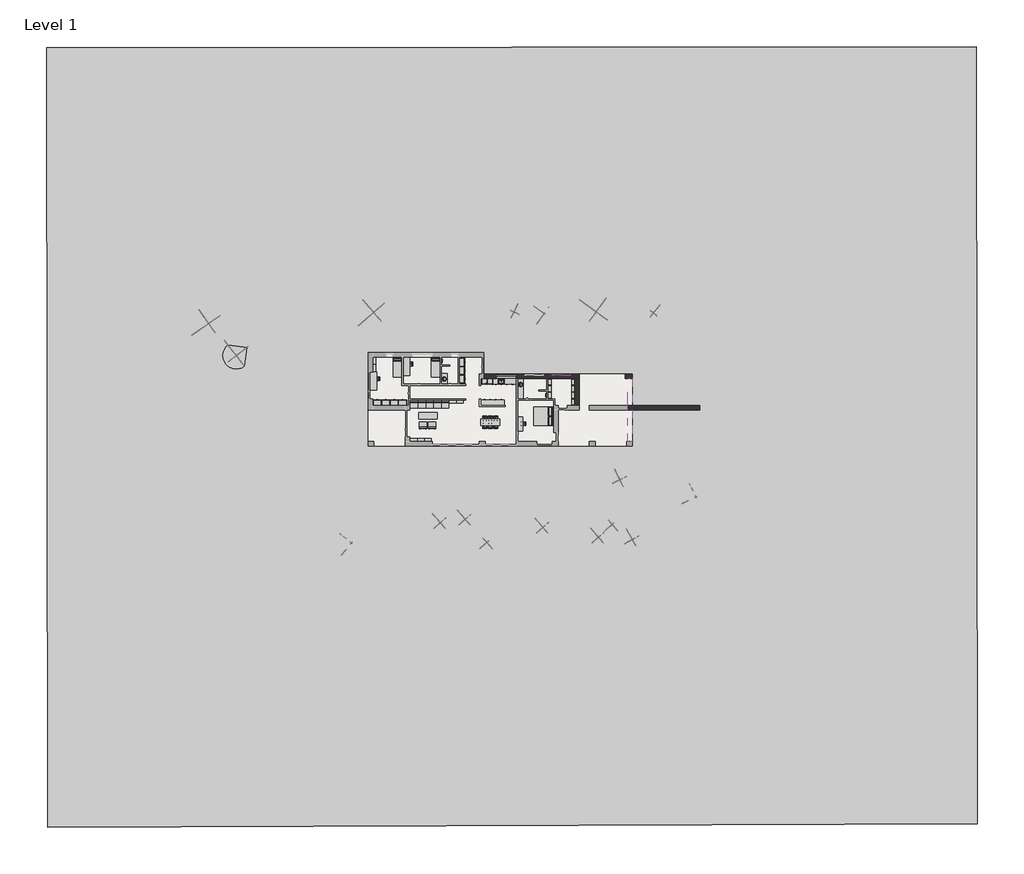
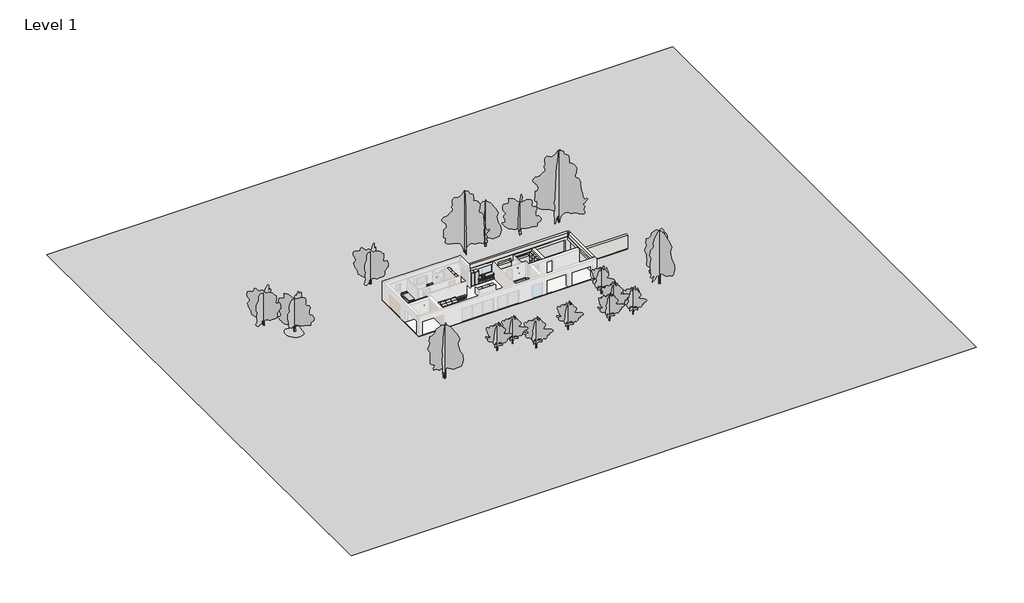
# One storey, part 2 of 2: 65 furniture elements, 17 geographic elements, 5 flow terminals, 4 walls, 1 proxy, 1 slab, 1 window.
"""IFC4 building model written with IfcOpenShell, lengths in millimetres."""

from ifc_helpers import new_model, si_unit, frame, origin, origin_with_axes, place, context, project, spatial, polyline, outline, extrude, faceted_brep, triangles, transform, mapped, element, save
from components import shower_shower_88c2a776, sink_kitchen_single_600_x_535mm_f0c6929d, sink_vanity_round_482_x_482mm_621b7b9b, furniture_c7f23c1d, furniture_56f83323, furniture_641ccf10, furniture_1500_x_500mm_231fc5f9, furniture_1900_x_700mm_ac9d8d07, furniture_2000_x_700mm_040c55c5, furniture_2000_x_700mm_sofa_1e09125b, furniture_700_x_300_x_2200mm_207dd1db, furniture_750_x_300_x_450mm_957a72fb, furniture_750_x_300_x_700mm_660817c4, base_cabinet_4_drawers_600_mm_7743cde6, base_cabinet_4_drawers_600_mm_75a3c887, bed_box_2000_x_2100mm_5f007bae, bed_standard_2100_x_900mm_af0b1266, couch_straight_module_couch_straight_module_fcc397ea, counter_top_counter_top_fbe04672, counter_top_w_sink_counter_top_w_sink_1a22a961, front_plain_front_plain_37046411, front_plain_front_plain_e6c80844, front_plain_front_plain_2_fe2e9d0c, plinth_164mm_a440ec44, plinth_164mm_10810e33, tall_cabinet_double_door_900_mm_12ca9f50, tall_cabinet_single_door_600_mm_6a825e10, vanity_counter_top_w_round_sink_hole_600mm_depth_ba51d22c, vanity_counter_top_w_round_sink_hole_600mm_depth_d806985c, rpc_tree_deciduous_american_beech_6_0_meters_be49fed4, rpc_tree_deciduous_japanese_cherry_4_5_meters_cd2ce576, rpc_tree_deciduous_japanese_cherry_5_meters_cd988bd5, rpc_tree_deciduous_lombardy_poplar_10_5_meters_a89ac7ab, rpc_tree_deciduous_lombardy_poplar_12_2_meters_e292760b, rpc_tree_deciduous_red_ash_2_4b385689, rpc_tree_deciduous_red_ash_7_6_meters_16c8020d, single_light_top_hinged_1920x600_dd11e4f9

model = new_model("IFC4")

# Units and contexts
model_context = context("Model", 3, world=origin())
ifc_project = project(units=[si_unit("LENGTHUNIT", "METRE", prefix="MILLI")], contexts=[model_context])

# Site, building, storey
site = spatial("IfcSite", under=ifc_project)
building = spatial("IfcBuilding", under=site)
storey = spatial("IfcBuildingStorey", under=building, Name="Level 1", Elevation=0.0)

# Proxy
placement = place(None, origin())
element("IfcBuildingElementProxy", 1, Name="Building Element Proxy", at=placement, inside=storey, context=model_context, shape_type="Tessellation", body=[
    triangles([(-34365.77677, 42576.5825684, -100.0000008), (64971.4109619, 42696.1241089, -100.0000008), (65090.9525024, -40383.7164185, -100.0000008), (-34246.2375549, -40742.3317383, -100.0000008)], [[1, 4, 3], [3, 2, 1]], closed=False),
])

# Flow terminals
shower_shower_shape = shower_shower_88c2a776(model_context)
element("IfcFlowTerminal", 2, ObjectType="Shower : Shower", at=placement, inside=storey, context=model_context, shape_type="MappedRepresentation", body=[
    mapped(shower_shower_shape, transform((19080.0, 5460.0, 0.0), x_axis=(0.0, -1.0000000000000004, 0.0), y_axis=(1.0000000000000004, 0.0, 0.0), z_axis=(0.0, 0.0, 1.0))),
])
element("IfcFlowTerminal", 3, ObjectType="Shower : Shower", at=placement, inside=storey, context=model_context, shape_type="MappedRepresentation", body=[
    mapped(shower_shower_shape, transform((7800.0, 9060.0, 0.0), x_axis=(0.0, 1.0000000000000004, 0.0), y_axis=(-1.0000000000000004, 0.0, 0.0), z_axis=(0.0, 0.0, 1.0))),
])
sink_kitchen_single_600_x_535mm_shape = sink_kitchen_single_600_x_535mm_f0c6929d(model_context)
element("IfcFlowTerminal", 4, ObjectType="Sink Kitchen-Single : 600 x 535mm", at=placement, inside=storey, context=model_context, shape_type="MappedRepresentation", body=[
    mapped(sink_kitchen_single_600_x_535mm_shape, transform((14204.3107594, 6884.4545989, 0.0), x_axis=(1.0, 0.0, 0.0), y_axis=(0.0, 1.0, 0.0), z_axis=(0.0, 0.0, 1.0))),
])
sink_vanity_round_482_x_482mm_shape = sink_vanity_round_482_x_482mm_621b7b9b(model_context)
element("IfcFlowTerminal", 5, ObjectType="Sink Vanity - Round : 482 x 482mm", at=placement, inside=storey, context=model_context, shape_type="MappedRepresentation", body=[
    mapped(sink_vanity_round_482_x_482mm_shape, transform((16358.3901141, 6444.5531607, 0.0), x_axis=(0.0, 1.0, 0.0), y_axis=(-1.0, 0.0, 0.0), z_axis=(0.0, 0.0, 1.0))),
])
element("IfcFlowTerminal", 6, ObjectType="Sink Vanity - Round : 482 x 482mm", at=placement, inside=storey, context=model_context, shape_type="MappedRepresentation", body=[
    mapped(sink_vanity_round_482_x_482mm_shape, transform((8199.0351087, 7049.1198202, 0.0), x_axis=(0.0, 1.0000000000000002, 0.0), y_axis=(-1.0000000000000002, 0.0, 0.0), z_axis=(0.0, 0.0, 1.0))),
])

# Furniture
furniture_shape = furniture_c7f23c1d(model_context)
element("IfcFurniture", 7, ObjectType="Armchair - Barcelona : Armchair - Barcelona", at=placement, inside=storey, context=model_context, shape_type="MappedRepresentation", body=[
    mapped(furniture_shape, transform((5860.0, 1780.0, 0.0), x_axis=(-1.0000000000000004, 0.0, 0.0), y_axis=(0.0, -1.0000000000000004, 0.0), z_axis=(0.0, 0.0, 1.0))),
])
element("IfcFurniture", 8, ObjectType="Armchair - Barcelona : Armchair - Barcelona", at=placement, inside=storey, context=model_context, shape_type="MappedRepresentation", body=[
    mapped(furniture_shape, transform((6820.0, 1780.0, 0.0), x_axis=(-1.0, 0.0, 0.0), y_axis=(0.0, -1.0, 0.0), z_axis=(0.0, 0.0, 1.0))),
])
furniture_2_shape = furniture_56f83323(model_context)
element("IfcFurniture", 9, ObjectType="Chair - Allround : Chair - allround", at=placement, inside=storey, context=model_context, shape_type="MappedRepresentation", body=[
    mapped(furniture_2_shape, transform((13040.0, 2890.0, 0.0), x_axis=(1.0, 0.0, 0.0), y_axis=(0.0, 1.0, 0.0), z_axis=(0.0, 0.0, 1.0))),
])
element("IfcFurniture", 10, ObjectType="Chair - Allround : Chair - allround", at=placement, inside=storey, context=model_context, shape_type="MappedRepresentation", body=[
    mapped(furniture_2_shape, transform((12440.0, 2890.0, 0.0), x_axis=(1.0, 0.0, 0.0), y_axis=(0.0, 1.0, 0.0), z_axis=(0.0, 0.0, 1.0))),
])
element("IfcFurniture", 11, ObjectType="Chair - Allround : Chair - allround", at=placement, inside=storey, context=model_context, shape_type="MappedRepresentation", body=[
    mapped(furniture_2_shape, transform((13640.0, 2190.0, 0.0), x_axis=(-1.0, 0.0, 0.0), y_axis=(0.0, -1.0, 0.0), z_axis=(0.0, 0.0, 1.0))),
])
element("IfcFurniture", 12, ObjectType="Chair - Allround : Chair - allround", at=placement, inside=storey, context=model_context, shape_type="MappedRepresentation", body=[
    mapped(furniture_2_shape, transform((905.0, 7180.0, 0.0), x_axis=(0.0, -1.0000000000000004, 0.0), y_axis=(1.0000000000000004, 0.0, 0.0), z_axis=(0.0, 0.0, 1.0))),
])
element("IfcFurniture", 13, ObjectType="Chair - Allround : Chair - allround", at=placement, inside=storey, context=model_context, shape_type="MappedRepresentation", body=[
    mapped(furniture_2_shape, transform((4460.0, 8740.0, 0.0), x_axis=(0.0, -1.0000000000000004, 0.0), y_axis=(1.0000000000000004, 0.0, 0.0), z_axis=(0.0, 0.0, 1.0))),
])
element("IfcFurniture", 14, ObjectType="Chair - Allround : Chair - allround", at=placement, inside=storey, context=model_context, shape_type="MappedRepresentation", body=[
    mapped(furniture_2_shape, transform((16525.0, 2370.0, 0.0), x_axis=(0.0, -1.0000000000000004, 0.0), y_axis=(1.0000000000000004, 0.0, 0.0), z_axis=(0.0, 0.0, 1.0))),
])
furniture_3_shape = furniture_641ccf10(model_context)
element("IfcFurniture", 15, ObjectType="Chair - Allround : Chair - allround", at=placement, inside=storey, context=model_context, shape_type="MappedRepresentation", body=[
    mapped(furniture_3_shape, transform((13640.0, 2890.0, 0.0), x_axis=(-1.0, 0.0, 0.0), y_axis=(0.0, -1.0, 0.0), z_axis=(0.0, 0.0, 1.0))),
])
element("IfcFurniture", 16, ObjectType="Chair - Allround : Chair - allround", at=placement, inside=storey, context=model_context, shape_type="MappedRepresentation", body=[
    mapped(furniture_3_shape, transform((13040.0, 2190.0, 0.0), x_axis=(1.0, 0.0, 0.0), y_axis=(0.0, 1.0, 0.0), z_axis=(0.0, 0.0, 1.0))),
])
element("IfcFurniture", 17, ObjectType="Chair - Allround : Chair - allround", at=placement, inside=storey, context=model_context, shape_type="MappedRepresentation", body=[
    mapped(furniture_3_shape, transform((12440.0, 2190.0, 0.0), x_axis=(1.0, 0.0, 0.0), y_axis=(0.0, 1.0, 0.0), z_axis=(0.0, 0.0, 1.0))),
])
furniture_1500_x_500mm_shape = furniture_1500_x_500mm_231fc5f9(model_context)
element("IfcFurniture", 18, ObjectType="Table - Allround : 1500 x 500mm", at=placement, inside=storey, context=model_context, shape_type="MappedRepresentation", body=[
    mapped(furniture_1500_x_500mm_shape, transform((16275.0, 2320.0, 0.0), x_axis=(0.0, 1.0000000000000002, 0.0), y_axis=(-1.0000000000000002, 0.0, 0.0), z_axis=(0.0, 0.0, 1.0))),
])
furniture_1900_x_700mm_shape = furniture_1900_x_700mm_ac9d8d07(model_context)
element("IfcFurniture", 19, ObjectType="Table - Allround : 1900 x 700mm", at=placement, inside=storey, context=model_context, shape_type="MappedRepresentation", body=[
    mapped(furniture_1900_x_700mm_shape, transform((555.0, 6930.0, 0.0), x_axis=(0.0, 1.0, 0.0), y_axis=(-1.0, 0.0, 0.0), z_axis=(0.0, 0.0, 1.0))),
])
element("IfcFurniture", 20, ObjectType="Table - Allround : 1900 x 700mm", at=placement, inside=storey, context=model_context, shape_type="MappedRepresentation", body=[
    mapped(furniture_1900_x_700mm_shape, transform((4110.0, 8490.0, 0.0), x_axis=(0.0, 1.0, 0.0), y_axis=(-1.0, 0.0, 0.0), z_axis=(0.0, 0.0, 1.0))),
])
furniture_2000_x_700mm_shape = furniture_2000_x_700mm_040c55c5(model_context)
element("IfcFurniture", 21, ObjectType="Table - Allround : 2000 x 700mm", at=placement, inside=storey, context=model_context, shape_type="MappedRepresentation", body=[
    mapped(furniture_2000_x_700mm_shape, transform((13040.0, 2540.0, 0.0), x_axis=(1.0, 0.0, 0.0), y_axis=(0.0, 1.0, 0.0), z_axis=(0.0, 0.0, 1.0))),
])
furniture_2000_x_700mm_sofa_shape = furniture_2000_x_700mm_sofa_1e09125b(model_context)
element("IfcFurniture", 22, ObjectType="Table - Allround : 2000 x 700mm Sofa", at=placement, inside=storey, context=model_context, shape_type="MappedRepresentation", body=[
    mapped(furniture_2000_x_700mm_sofa_shape, transform((6380.0, 3240.0, 0.0), x_axis=(1.0, 0.0, 0.0), y_axis=(0.0, 1.0, 0.0), z_axis=(0.0, 0.0, 1.0))),
])
furniture_700_x_300_x_2200mm_shape = furniture_700_x_300_x_2200mm_207dd1db(model_context)
element("IfcFurniture", 23, ObjectType="Shelving (Floor) - Allround : 700 x 300 x 2200mm", at=placement, inside=storey, context=model_context, shape_type="MappedRepresentation", body=[
    mapped(furniture_700_x_300_x_2200mm_shape, transform((19085.2, 6810.0, 0.0), x_axis=(0.0, 1.0000000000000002, 0.0), y_axis=(-1.0000000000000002, 0.0, 0.0), z_axis=(0.0, 0.0, 1.0))),
])
element("IfcFurniture", 24, ObjectType="Shelving (Floor) - Allround : 700 x 300 x 2200mm", at=placement, inside=storey, context=model_context, shape_type="MappedRepresentation", body=[
    mapped(furniture_700_x_300_x_2200mm_shape, transform((19085.2, 6110.0, 0.0), x_axis=(0.0, 1.0000000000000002, 0.0), y_axis=(-1.0000000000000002, 0.0, 0.0), z_axis=(0.0, 0.0, 1.0))),
])
element("IfcFurniture", 25, ObjectType="Shelving (Floor) - Allround : 700 x 300 x 2200mm", at=placement, inside=storey, context=model_context, shape_type="MappedRepresentation", body=[
    mapped(furniture_700_x_300_x_2200mm_shape, transform((19085.2, 5410.0, 0.0), x_axis=(0.0, 1.0000000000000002, 0.0), y_axis=(-1.0000000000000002, 0.0, 0.0), z_axis=(0.0, 0.0, 1.0))),
])
element("IfcFurniture", 26, ObjectType="Shelving (Floor) - Allround : 700 x 300 x 2200mm", at=placement, inside=storey, context=model_context, shape_type="MappedRepresentation", body=[
    mapped(furniture_700_x_300_x_2200mm_shape, transform((21585.2, 6810.0, 0.0), x_axis=(0.0, 1.0000000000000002, 0.0), y_axis=(-1.0000000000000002, 0.0, 0.0), z_axis=(0.0, 0.0, 1.0))),
])
element("IfcFurniture", 27, ObjectType="Shelving (Floor) - Allround : 700 x 300 x 2200mm", at=placement, inside=storey, context=model_context, shape_type="MappedRepresentation", body=[
    mapped(furniture_700_x_300_x_2200mm_shape, transform((21585.2, 6110.0, 0.0), x_axis=(0.0, 1.0000000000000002, 0.0), y_axis=(-1.0000000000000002, 0.0, 0.0), z_axis=(0.0, 0.0, 1.0))),
])
element("IfcFurniture", 28, ObjectType="Shelving (Floor) - Allround : 700 x 300 x 2200mm", at=placement, inside=storey, context=model_context, shape_type="MappedRepresentation", body=[
    mapped(furniture_700_x_300_x_2200mm_shape, transform((21585.2, 5410.0, 0.0), x_axis=(0.0, 1.0000000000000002, 0.0), y_axis=(-1.0000000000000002, 0.0, 0.0), z_axis=(0.0, 0.0, 1.0))),
])
element("IfcFurniture", 29, ObjectType="Shelving (Floor) - Allround : 700 x 300 x 2200mm", at=placement, inside=storey, context=model_context, shape_type="MappedRepresentation", body=[
    mapped(furniture_700_x_300_x_2200mm_shape, transform((21585.2, 4710.0, 0.0), x_axis=(0.0, 1.0000000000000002, 0.0), y_axis=(-1.0000000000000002, 0.0, 0.0), z_axis=(0.0, 0.0, 1.0))),
])
furniture_750_x_300_x_450mm_shape = furniture_750_x_300_x_450mm_957a72fb(model_context)
element("IfcFurniture", 30, ObjectType="Shelving (Floor) - Allround : 750 x 300 x 450mm", at=placement, inside=storey, context=model_context, shape_type="MappedRepresentation", body=[
    mapped(furniture_750_x_300_x_450mm_shape, transform((9045.0, 5034.8, 0.0), x_axis=(1.0, 0.0, 0.0), y_axis=(0.0, 1.0, 0.0), z_axis=(0.0, 0.0, 1.0))),
])
element("IfcFurniture", 31, ObjectType="Shelving (Floor) - Allround : 750 x 300 x 450mm", at=placement, inside=storey, context=model_context, shape_type="MappedRepresentation", body=[
    mapped(furniture_750_x_300_x_450mm_shape, transform((9795.0, 5034.8, 0.0), x_axis=(1.0, 0.0, 0.0), y_axis=(0.0, 1.0, 0.0), z_axis=(0.0, 0.0, 1.0))),
])
element("IfcFurniture", 32, ObjectType="Shelving (Floor) - Allround : 750 x 300 x 450mm", at=placement, inside=storey, context=model_context, shape_type="MappedRepresentation", body=[
    mapped(furniture_750_x_300_x_450mm_shape, transform((4855.0, 974.8, 0.0), x_axis=(1.0, 0.0, 0.0), y_axis=(0.0, 1.0, 0.0), z_axis=(0.0, 0.0, 1.0))),
])
element("IfcFurniture", 33, ObjectType="Shelving (Floor) - Allround : 750 x 300 x 450mm", at=placement, inside=storey, context=model_context, shape_type="MappedRepresentation", body=[
    mapped(furniture_750_x_300_x_450mm_shape, transform((5605.0, 974.8, 0.0), x_axis=(1.0, 0.0, 0.0), y_axis=(0.0, 1.0, 0.0), z_axis=(0.0, 0.0, 1.0))),
])
element("IfcFurniture", 34, ObjectType="Shelving (Floor) - Allround : 750 x 300 x 450mm", at=placement, inside=storey, context=model_context, shape_type="MappedRepresentation", body=[
    mapped(furniture_750_x_300_x_450mm_shape, transform((6355.0, 974.8, 0.0), x_axis=(1.0, 0.0, 0.0), y_axis=(0.0, 1.0, 0.0), z_axis=(0.0, 0.0, 1.0))),
])
furniture_750_x_300_x_700mm_shape = furniture_750_x_300_x_700mm_660817c4(model_context)
element("IfcFurniture", 35, ObjectType="Shelving (Floor) - Allround : 750 x 300 x 700mm", at=placement, inside=storey, context=model_context, shape_type="MappedRepresentation", body=[
    mapped(furniture_750_x_300_x_700mm_shape, transform((365.2, 9065.0, 0.0), x_axis=(0.0, 1.0000000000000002, 0.0), y_axis=(-1.0000000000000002, 0.0, 0.0), z_axis=(0.0, 0.0, 1.0))),
])
element("IfcFurniture", 36, ObjectType="Shelving (Floor) - Allround : 750 x 300 x 700mm", at=placement, inside=storey, context=model_context, shape_type="MappedRepresentation", body=[
    mapped(furniture_750_x_300_x_700mm_shape, transform((365.2, 8315.0, 0.0), x_axis=(0.0, 1.0000000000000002, 0.0), y_axis=(-1.0000000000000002, 0.0, 0.0), z_axis=(0.0, 0.0, 1.0))),
])
base_cabinet_4_drawers_600_mm_shape = base_cabinet_4_drawers_600_mm_7743cde6(model_context)
element("IfcFurniture", 37, ObjectType="Base Cabinet - 4 Drawers : 600 mm", at=placement, inside=storey, context=model_context, shape_type="MappedRepresentation", body=[
    mapped(base_cabinet_4_drawers_600_mm_shape, transform((13575.2996736, 7200.0, 0.0), x_axis=(1.0, 0.0, 0.0), y_axis=(0.0, 1.0, 0.0), z_axis=(0.0, 0.0, 1.0))),
])
element("IfcFurniture", 38, ObjectType="Base Cabinet - 4 Drawers : 600 mm", at=placement, inside=storey, context=model_context, shape_type="MappedRepresentation", body=[
    mapped(base_cabinet_4_drawers_600_mm_shape, transform((14775.2996736, 7200.0, 0.0), x_axis=(1.0, 0.0, 0.0), y_axis=(0.0, 1.0, 0.0), z_axis=(0.0, 0.0, 1.0))),
])
element("IfcFurniture", 39, ObjectType="Base Cabinet - 4 Drawers : 600 mm", at=placement, inside=storey, context=model_context, shape_type="MappedRepresentation", body=[
    mapped(base_cabinet_4_drawers_600_mm_shape, transform((15375.2996736, 7200.0, 0.0), x_axis=(1.0, 0.0, 0.0), y_axis=(0.0, 1.0, 0.0), z_axis=(0.0, 0.0, 1.0))),
])
element("IfcFurniture", 40, ObjectType="Base Cabinet - 4 Drawers : 600 mm", at=placement, inside=storey, context=model_context, shape_type="MappedRepresentation", body=[
    mapped(base_cabinet_4_drawers_600_mm_shape, transform((12464.7003264, 4320.0, 0.0), x_axis=(-1.0, 0.0, 0.0), y_axis=(0.0, -1.0, 0.0), z_axis=(0.0, 0.0, 1.0))),
])
element("IfcFurniture", 41, ObjectType="Base Cabinet - 4 Drawers : 600 mm", at=placement, inside=storey, context=model_context, shape_type="MappedRepresentation", body=[
    mapped(base_cabinet_4_drawers_600_mm_shape, transform((13064.7003264, 4320.0, 0.0), x_axis=(-1.0, 0.0, 0.0), y_axis=(0.0, -1.0, 0.0), z_axis=(0.0, 0.0, 1.0))),
])
element("IfcFurniture", 42, ObjectType="Base Cabinet - 4 Drawers : 600 mm", at=placement, inside=storey, context=model_context, shape_type="MappedRepresentation", body=[
    mapped(base_cabinet_4_drawers_600_mm_shape, transform((13664.7003264, 4320.0, 0.0), x_axis=(-1.0, 0.0, 0.0), y_axis=(0.0, -1.0, 0.0), z_axis=(0.0, 0.0, 1.0))),
])
element("IfcFurniture", 43, ObjectType="Base Cabinet - 4 Drawers : 600 mm", at=placement, inside=storey, context=model_context, shape_type="MappedRepresentation", body=[
    mapped(base_cabinet_4_drawers_600_mm_shape, transform((14264.7003264, 4320.0, 0.0), x_axis=(-1.0, 0.0, 0.0), y_axis=(0.0, -1.0, 0.0), z_axis=(0.0, 0.0, 1.0))),
])
base_cabinet_4_drawers_600_mm_2_shape = base_cabinet_4_drawers_600_mm_75a3c887(model_context)
element("IfcFurniture", 44, ObjectType="Base Cabinet - 4 Drawers : 600 mm", at=placement, inside=storey, context=model_context, shape_type="MappedRepresentation", body=[
    mapped(base_cabinet_4_drawers_600_mm_2_shape, transform((14175.2996736, 7200.0, 0.0), x_axis=(1.0, 0.0, 0.0), y_axis=(0.0, 1.0, 0.0), z_axis=(0.0, 0.0, 1.0))),
])
bed_box_2000_x_2100mm_shape = bed_box_2000_x_2100mm_5f007bae(model_context)
element("IfcFurniture", 45, ObjectType="Bed - Box : 2000 x 2100mm", at=placement, inside=storey, context=model_context, shape_type="MappedRepresentation", body=[
    mapped(bed_box_2000_x_2100mm_shape, transform((18944.4295082, 3509.152459, 0.0), x_axis=(0.0, -1.0, 0.0), y_axis=(1.0, 0.0, 0.0), z_axis=(0.0, 0.0, 1.0))),
])
bed_standard_2100_x_900mm_shape = bed_standard_2100_x_900mm_af0b1266(model_context)
element("IfcFurniture", 46, ObjectType="Bed - Standard : 2100 x 900mm", at=placement, inside=storey, context=model_context, shape_type="MappedRepresentation", body=[
    mapped(bed_standard_2100_x_900mm_shape, transform((2838.5114754, 8435.595082, 0.0), x_axis=(1.0, 0.0, 0.0), y_axis=(0.0, 1.0, 0.0), z_axis=(0.0, 0.0, 1.0))),
])
element("IfcFurniture", 47, ObjectType="Bed - Standard : 2100 x 900mm", at=placement, inside=storey, context=model_context, shape_type="MappedRepresentation", body=[
    mapped(bed_standard_2100_x_900mm_shape, transform((6918.5114754, 8435.595082, 0.0), x_axis=(1.0, 0.0, 0.0), y_axis=(0.0, 1.0, 0.0), z_axis=(0.0, 0.0, 1.0))),
])
couch_straight_module_couch_straight_module_shape = couch_straight_module_couch_straight_module_fcc397ea(model_context)
element("IfcFurniture", 48, ObjectType="Couch - Straight Module : Couch straight module", at=placement, inside=storey, context=model_context, shape_type="MappedRepresentation", body=[
    mapped(couch_straight_module_couch_straight_module_shape, transform((4480.0, 4050.0, 0.0), x_axis=(1.0, 0.0, 0.0), y_axis=(0.0, 1.0, 0.0), z_axis=(0.0, 0.0, 1.0))),
])
element("IfcFurniture", 49, ObjectType="Couch - Straight Module : Couch straight module", at=placement, inside=storey, context=model_context, shape_type="MappedRepresentation", body=[
    mapped(couch_straight_module_couch_straight_module_shape, transform((5310.0, 4050.0, 0.0), x_axis=(1.0, 0.0, 0.0), y_axis=(0.0, 1.0, 0.0), z_axis=(0.0, 0.0, 1.0))),
])
element("IfcFurniture", 50, ObjectType="Couch - Straight Module : Couch straight module", at=placement, inside=storey, context=model_context, shape_type="MappedRepresentation", body=[
    mapped(couch_straight_module_couch_straight_module_shape, transform((6140.0, 4050.0, 0.0), x_axis=(1.0, 0.0, 0.0), y_axis=(0.0, 1.0, 0.0), z_axis=(0.0, 0.0, 1.0))),
])
element("IfcFurniture", 51, ObjectType="Couch - Straight Module : Couch straight module", at=placement, inside=storey, context=model_context, shape_type="MappedRepresentation", body=[
    mapped(couch_straight_module_couch_straight_module_shape, transform((6970.0, 4050.0, 0.0), x_axis=(1.0, 0.0, 0.0), y_axis=(0.0, 1.0, 0.0), z_axis=(0.0, 0.0, 1.0))),
])
element("IfcFurniture", 52, ObjectType="Couch - Straight Module : Couch straight module", at=placement, inside=storey, context=model_context, shape_type="MappedRepresentation", body=[
    mapped(couch_straight_module_couch_straight_module_shape, transform((7800.0, 4050.0, 0.0), x_axis=(1.0, 0.0, 0.0), y_axis=(0.0, 1.0, 0.0), z_axis=(0.0, 0.0, 1.0))),
])
counter_top_counter_top_shape = counter_top_counter_top_fbe04672(model_context)
element("IfcFurniture", 53, ObjectType="Counter Top : Counter Top", at=placement, inside=storey, context=model_context, shape_type="MappedRepresentation", body=[
    mapped(counter_top_counter_top_shape, transform((12555.2996736, 4920.0, 0.0), x_axis=(1.0, 0.0, 0.0), y_axis=(0.0, 1.0, 0.0), z_axis=(0.0, 0.0, 1.0))),
])
counter_top_w_sink_counter_top_w_sink_shape = counter_top_w_sink_counter_top_w_sink_1a22a961(model_context)
element("IfcFurniture", 54, ObjectType="Counter Top w Sink : Counter Top w Sink", at=placement, inside=storey, context=model_context, shape_type="MappedRepresentation", body=[
    mapped(counter_top_w_sink_counter_top_w_sink_shape, transform((13875.2996736, 7200.0, 0.0), x_axis=(1.0, 0.0, 0.0), y_axis=(0.0, 1.0, 0.0), z_axis=(0.0, 0.0, 1.0))),
])
front_plain_front_plain_shape = front_plain_front_plain_37046411(model_context)
element("IfcFurniture", 55, ObjectType="Front - Plain : Front - Plain", at=placement, inside=storey, context=model_context, shape_type="MappedRepresentation", body=[
    mapped(front_plain_front_plain_shape, transform((15783.0, 6711.0, 161.0), x_axis=(1.0, 0.0, 0.0), y_axis=(0.0, 1.0, 0.0), z_axis=(0.0, 0.0, 1.0))),
])
element("IfcFurniture", 56, ObjectType="Front - Plain : Front - Plain", at=placement, inside=storey, context=model_context, shape_type="MappedRepresentation", body=[
    mapped(front_plain_front_plain_shape, transform((12057.0, 4809.0, 161.0), x_axis=(-1.0, 0.0, 0.0), y_axis=(0.0, -1.0, 0.0), z_axis=(0.0, 0.0, 1.0))),
])
front_plain_front_plain_2_shape = front_plain_front_plain_e6c80844(model_context)
element("IfcFurniture", 57, ObjectType="Front - Plain : Front - Plain", at=placement, inside=storey, context=model_context, shape_type="MappedRepresentation", body=[
    mapped(front_plain_front_plain_2_shape, transform((12657.0, 6711.0, 161.0), x_axis=(-1.0, 0.0, 0.0), y_axis=(0.0, -1.0, 0.0), z_axis=(0.0, 0.0, 1.0))),
])
front_plain_front_plain_2_2_shape = front_plain_front_plain_2_fe2e9d0c(model_context)
element("IfcFurniture", 58, ObjectType="Front - Plain : Front - Plain 2", at=placement, inside=storey, context=model_context, shape_type="MappedRepresentation", body=[
    mapped(front_plain_front_plain_2_2_shape, transform((12057.0, 6711.0, 161.0), x_axis=(-1.0, 0.0, 0.0), y_axis=(0.0, -1.0, 0.0), z_axis=(0.0, 0.0, 1.0))),
])
plinth_164mm_shape = plinth_164mm_a440ec44(model_context)
element("IfcFurniture", 59, ObjectType="Plinth : 164mm", at=placement, inside=storey, context=model_context, shape_type="MappedRepresentation", body=[
    mapped(plinth_164mm_shape, transform((13875.2996736, 7200.0, 0.0), x_axis=(1.0, 0.0, 0.0), y_axis=(0.0, 1.0, 0.0), z_axis=(0.0, 0.0, 1.0))),
])
plinth_164mm_2_shape = plinth_164mm_10810e33(model_context)
element("IfcFurniture", 60, ObjectType="Plinth : 164mm", at=placement, inside=storey, context=model_context, shape_type="MappedRepresentation", body=[
    mapped(plinth_164mm_2_shape, transform((13304.7003264, 4320.0, 0.0), x_axis=(-1.0000000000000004, 0.0, 0.0), y_axis=(0.0, -1.0000000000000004, 0.0), z_axis=(0.0, 0.0, 1.0))),
])
tall_cabinet_double_door_900_mm_shape = tall_cabinet_double_door_900_mm_12ca9f50(model_context)
element("IfcFurniture", 61, ObjectType="Tall Cabinet - Double door : 900 mm", at=placement, inside=storey, context=model_context, shape_type="MappedRepresentation", body=[
    mapped(tall_cabinet_double_door_900_mm_shape, transform((1014.7003264, 4320.0, 0.0), x_axis=(-1.0000000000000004, 0.0, 0.0), y_axis=(0.0, -1.0000000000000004, 0.0), z_axis=(0.0, 0.0, 1.0))),
])
element("IfcFurniture", 62, ObjectType="Tall Cabinet - Double door : 900 mm", at=placement, inside=storey, context=model_context, shape_type="MappedRepresentation", body=[
    mapped(tall_cabinet_double_door_900_mm_shape, transform((1914.7003264, 4320.0, 0.0), x_axis=(-1.0000000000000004, 0.0, 0.0), y_axis=(0.0, -1.0000000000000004, 0.0), z_axis=(0.0, 0.0, 1.0))),
])
element("IfcFurniture", 63, ObjectType="Tall Cabinet - Double door : 900 mm", at=placement, inside=storey, context=model_context, shape_type="MappedRepresentation", body=[
    mapped(tall_cabinet_double_door_900_mm_shape, transform((2814.7003264, 4320.0, 0.0), x_axis=(-1.0000000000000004, 0.0, 0.0), y_axis=(0.0, -1.0000000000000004, 0.0), z_axis=(0.0, 0.0, 1.0))),
])
element("IfcFurniture", 64, ObjectType="Tall Cabinet - Double door : 900 mm", at=placement, inside=storey, context=model_context, shape_type="MappedRepresentation", body=[
    mapped(tall_cabinet_double_door_900_mm_shape, transform((3714.7003264, 4320.0, 0.0), x_axis=(-1.0000000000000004, 0.0, 0.0), y_axis=(0.0, -1.0000000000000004, 0.0), z_axis=(0.0, 0.0, 1.0))),
])
element("IfcFurniture", 65, ObjectType="Tall Cabinet - Double door : 900 mm", at=placement, inside=storey, context=model_context, shape_type="MappedRepresentation", body=[
    mapped(tall_cabinet_double_door_900_mm_shape, transform((9720.0, 8895.2996736, 0.0), x_axis=(0.0, 1.0000000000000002, 0.0), y_axis=(-1.0000000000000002, 0.0, 0.0), z_axis=(0.0, 0.0, 1.0))),
])
element("IfcFurniture", 66, ObjectType="Tall Cabinet - Double door : 900 mm", at=placement, inside=storey, context=model_context, shape_type="MappedRepresentation", body=[
    mapped(tall_cabinet_double_door_900_mm_shape, transform((9720.0, 7995.2996736, 0.0), x_axis=(0.0, 1.0000000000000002, 0.0), y_axis=(-1.0000000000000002, 0.0, 0.0), z_axis=(0.0, 0.0, 1.0))),
])
element("IfcFurniture", 67, ObjectType="Tall Cabinet - Double door : 900 mm", at=placement, inside=storey, context=model_context, shape_type="MappedRepresentation", body=[
    mapped(tall_cabinet_double_door_900_mm_shape, transform((9720.0, 7095.2996736, 0.0), x_axis=(0.0, 1.0000000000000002, 0.0), y_axis=(-1.0000000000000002, 0.0, 0.0), z_axis=(0.0, 0.0, 1.0))),
])
tall_cabinet_single_door_600_mm_shape = tall_cabinet_single_door_600_mm_6a825e10(model_context)
element("IfcFurniture", 68, ObjectType="Tall Cabinet - Single door : 600 mm", at=placement, inside=storey, context=model_context, shape_type="MappedRepresentation", body=[
    mapped(tall_cabinet_single_door_600_mm_shape, transform((12375.2996736, 7200.0, 0.0), x_axis=(1.0, 0.0, 0.0), y_axis=(0.0, 1.0, 0.0), z_axis=(0.0, 0.0, 1.0))),
])
element("IfcFurniture", 69, ObjectType="Tall Cabinet - Single door : 600 mm", at=placement, inside=storey, context=model_context, shape_type="MappedRepresentation", body=[
    mapped(tall_cabinet_single_door_600_mm_shape, transform((12975.2996736, 7200.0, 0.0), x_axis=(1.0, 0.0, 0.0), y_axis=(0.0, 1.0, 0.0), z_axis=(0.0, 0.0, 1.0))),
])
vanity_counter_top_w_round_sink_hole_600mm_depth_shape = vanity_counter_top_w_round_sink_hole_600mm_depth_ba51d22c(model_context)
element("IfcFurniture", 70, ObjectType="Vanity Counter Top w. Round Sink Hole : 600mm Depth", at=placement, inside=storey, context=model_context, shape_type="MappedRepresentation", body=[
    mapped(vanity_counter_top_w_round_sink_hole_600mm_depth_shape, transform((15960.0, 6367.4622951, 0.0), x_axis=(0.0, 1.0000000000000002, 0.0), y_axis=(-1.0000000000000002, 0.0, 0.0), z_axis=(0.0, 0.0, 1.0))),
])
vanity_counter_top_w_round_sink_hole_600mm_depth_2_shape = vanity_counter_top_w_round_sink_hole_600mm_depth_d806985c(model_context)
element("IfcFurniture", 71, ObjectType="Vanity Counter Top w. Round Sink Hole : 600mm Depth", at=placement, inside=storey, context=model_context, shape_type="MappedRepresentation", body=[
    mapped(vanity_counter_top_w_round_sink_hole_600mm_depth_2_shape, transform((7800.0, 7927.4622951, 0.0), x_axis=(0.0, 1.0000000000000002, 0.0), y_axis=(-1.0000000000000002, 0.0, 0.0), z_axis=(0.0, 0.0, 1.0))),
])

# Geographic elements
rpc_tree_deciduous_american_beech_6_0_meters_shape = rpc_tree_deciduous_american_beech_6_0_meters_be49fed4(model_context)
element("IfcGeographicElement", 72, ObjectType="RPC Tree - Deciduous : American Beech - 6.0 Meters", at=placement, inside=storey, context=model_context, shape_type="MappedRepresentation", body=[
    mapped(rpc_tree_deciduous_american_beech_6_0_meters_shape, transform((24356.1071766, 14328.1056074, -200.0), x_axis=(0.8091201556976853, -0.5876432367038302, 0.0), y_axis=(0.5876432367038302, 0.8091201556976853, 0.0), z_axis=(0.0, 0.0, 1.0))),
])
element("IfcGeographicElement", 73, ObjectType="RPC Tree - Deciduous : American Beech - 6.0 Meters", at=placement, inside=storey, context=model_context, shape_type="MappedRepresentation", body=[
    mapped(rpc_tree_deciduous_american_beech_6_0_meters_shape, transform((-14098.0785362, 9648.3486516, -100.0), x_axis=(0.6156614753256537, -0.7880107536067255, 0.0), y_axis=(0.7880107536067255, 0.6156614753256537, 0.0), z_axis=(0.0, 0.0, 1.0))),
])
element("IfcGeographicElement", 74, ObjectType="RPC Tree - Deciduous : American Beech - 6.0 Meters", at=placement, inside=storey, context=model_context, shape_type="MappedRepresentation", body=[
    mapped(rpc_tree_deciduous_american_beech_6_0_meters_shape, transform((-17050.6335171, 13084.7262767, -200.0), x_axis=(0.819152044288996, 0.5735764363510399, 0.0), y_axis=(-0.5735764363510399, 0.819152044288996, 0.0), z_axis=(0.0, 0.0, 1.0))),
])
element("IfcGeographicElement", 75, ObjectType="RPC Tree - Deciduous : American Beech - 6.0 Meters", at=placement, inside=storey, context=model_context, shape_type="MappedRepresentation", body=[
    mapped(rpc_tree_deciduous_american_beech_6_0_meters_shape, transform((585.0177089, 14270.8978992, -200.0), x_axis=(0.7547095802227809, 0.656059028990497, 0.0), y_axis=(-0.656059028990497, 0.7547095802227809, 0.0), z_axis=(0.0, 0.0, 1.0))),
])
rpc_tree_deciduous_japanese_cherry_4_5_meters_shape = rpc_tree_deciduous_japanese_cherry_4_5_meters_cd2ce576(model_context)
element("IfcGeographicElement", 76, ObjectType="RPC Tree - Deciduous : Japanese Cherry - 4.5 Meters", at=placement, inside=storey, context=model_context, shape_type="MappedRepresentation", body=[
    mapped(rpc_tree_deciduous_japanese_cherry_4_5_meters_shape, transform((28208.8811591, -10005.5743088, -200.0), x_axis=(0.8746197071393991, 0.48480962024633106, 0.0), y_axis=(-0.48480962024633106, 0.8746197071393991, 0.0), z_axis=(0.0, 0.0, 1.0))),
])
element("IfcGeographicElement", 77, ObjectType="RPC Tree - Deciduous : Japanese Cherry - 4.5 Meters", at=placement, inside=storey, context=model_context, shape_type="MappedRepresentation", body=[
    mapped(rpc_tree_deciduous_japanese_cherry_4_5_meters_shape, transform((24600.0, -9758.3581553, -200.0), x_axis=(0.7547095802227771, 0.6560590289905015, 0.0), y_axis=(-0.6560590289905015, 0.7547095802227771, 0.0), z_axis=(0.0, 0.0, 1.0))),
])
element("IfcGeographicElement", 78, ObjectType="RPC Tree - Deciduous : Japanese Cherry - 4.5 Meters", at=placement, inside=storey, context=model_context, shape_type="MappedRepresentation", body=[
    mapped(rpc_tree_deciduous_japanese_cherry_4_5_meters_shape, transform((26879.1076462, -3615.5063081, -200.0), x_axis=(0.89879404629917, 0.43837114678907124, 0.0), y_axis=(-0.43837114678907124, 0.89879404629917, 0.0), z_axis=(0.0, 0.0, 1.0))),
])
element("IfcGeographicElement", 79, ObjectType="RPC Tree - Deciduous : Japanese Cherry - 4.5 Meters", at=placement, inside=storey, context=model_context, shape_type="MappedRepresentation", body=[
    mapped(rpc_tree_deciduous_japanese_cherry_4_5_meters_shape, transform((18663.2861781, -8711.5553318, -200.0), x_axis=(0.7547095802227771, 0.6560590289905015, 0.0), y_axis=(-0.6560590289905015, 0.7547095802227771, 0.0), z_axis=(0.0, 0.0, 1.0))),
])
element("IfcGeographicElement", 80, ObjectType="RPC Tree - Deciduous : Japanese Cherry - 4.5 Meters", at=placement, inside=storey, context=model_context, shape_type="MappedRepresentation", body=[
    mapped(rpc_tree_deciduous_japanese_cherry_4_5_meters_shape, transform((7703.8198464, -8206.2853176, -200.0), x_axis=(0.7547095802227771, 0.6560590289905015, 0.0), y_axis=(-0.6560590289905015, 0.7547095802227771, 0.0), z_axis=(0.0, 0.0, 1.0))),
])
element("IfcGeographicElement", 81, ObjectType="RPC Tree - Deciduous : Japanese Cherry - 4.5 Meters", at=placement, inside=storey, context=model_context, shape_type="MappedRepresentation", body=[
    mapped(rpc_tree_deciduous_japanese_cherry_4_5_meters_shape, transform((10363.2861781, -7842.0174119, -200.0), x_axis=(0.7547095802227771, 0.6560590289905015, 0.0), y_axis=(-0.6560590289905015, 0.7547095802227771, 0.0), z_axis=(0.0, 0.0, 1.0))),
])
rpc_tree_deciduous_japanese_cherry_5_meters_shape = rpc_tree_deciduous_japanese_cherry_5_meters_cd988bd5(model_context)
element("IfcGeographicElement", 82, ObjectType="RPC Tree - Deciduous : Japanese Cherry - 5 Meters", at=placement, inside=storey, context=model_context, shape_type="MappedRepresentation", body=[
    mapped(rpc_tree_deciduous_japanese_cherry_5_meters_shape, transform((26062.7074032, -8394.3614352, -200.0), x_axis=(0.7547095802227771, 0.6560590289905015, 0.0), y_axis=(-0.6560590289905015, 0.7547095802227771, 0.0), z_axis=(0.0, 0.0, 1.0))),
])
element("IfcGeographicElement", 83, ObjectType="RPC Tree - Deciduous : Japanese Cherry - 5 Meters", at=placement, inside=storey, context=model_context, shape_type="MappedRepresentation", body=[
    mapped(rpc_tree_deciduous_japanese_cherry_5_meters_shape, transform((12674.5460551, -10316.2334114, -200.0), x_axis=(0.7547095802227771, 0.6560590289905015, 0.0), y_axis=(-0.6560590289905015, 0.7547095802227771, 0.0), z_axis=(0.0, 0.0, 1.0))),
])
rpc_tree_deciduous_lombardy_poplar_10_5_meters_shape = rpc_tree_deciduous_lombardy_poplar_10_5_meters_a89ac7ab(model_context)
element("IfcGeographicElement", 84, ObjectType="RPC Tree - Deciduous : Lombardy Poplar - 10,5 Meters", at=placement, inside=storey, context=model_context, shape_type="MappedRepresentation", body=[
    mapped(rpc_tree_deciduous_lombardy_poplar_10_5_meters_shape, transform((15567.200656, 14317.6703771, -200.0), x_axis=(0.43837114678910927, 0.8987940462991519, 0.0), y_axis=(-0.8987940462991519, 0.43837114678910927, 0.0), z_axis=(0.0, 0.0, 1.0))),
])
rpc_tree_deciduous_lombardy_poplar_12_2_meters_shape = rpc_tree_deciduous_lombardy_poplar_12_2_meters_e292760b(model_context)
element("IfcGeographicElement", 85, ObjectType="RPC Tree - Deciduous : Lombardy Poplar - 12.2 Meters", at=placement, inside=storey, context=model_context, shape_type="MappedRepresentation", body=[
    mapped(rpc_tree_deciduous_lombardy_poplar_12_2_meters_shape, transform((30467.200656, 14217.6703771, -200.0), x_axis=(0.6427876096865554, 0.7660444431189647, 0.0), y_axis=(-0.7660444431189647, 0.6427876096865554, 0.0), z_axis=(0.0, 0.0, 1.0))),
])
rpc_tree_deciduous_red_ash_2_shape = rpc_tree_deciduous_red_ash_2_4b385689(model_context)
element("IfcGeographicElement", 86, ObjectType="RPC Tree - Deciduous : Red Ash - 2", at=placement, inside=storey, context=model_context, shape_type="MappedRepresentation", body=[
    mapped(rpc_tree_deciduous_red_ash_2_shape, transform((35015.8984331, -5443.9964463, -200.0), x_axis=(0.89879404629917, 0.43837114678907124, 0.0), y_axis=(-0.43837114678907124, 0.89879404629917, 0.0), z_axis=(0.0, 0.0, 1.0))),
])
element("IfcGeographicElement", 87, ObjectType="RPC Tree - Deciduous : Red Ash - 2", at=placement, inside=storey, context=model_context, shape_type="MappedRepresentation", body=[
    mapped(rpc_tree_deciduous_red_ash_2_shape, transform((-1805.2945775, -10361.9708877, -200.0), x_axis=(0.6293203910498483, 0.7771459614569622, 0.0), y_axis=(-0.7771459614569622, 0.6293203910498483, 0.0), z_axis=(0.0, 0.0, 1.0))),
])
rpc_tree_deciduous_red_ash_7_6_meters_shape = rpc_tree_deciduous_red_ash_7_6_meters_16c8020d(model_context)
element("IfcGeographicElement", 88, ObjectType="RPC Tree - Deciduous : Red Ash - 7.6 Meters", at=placement, inside=storey, context=model_context, shape_type="MappedRepresentation", body=[
    mapped(rpc_tree_deciduous_red_ash_7_6_meters_shape, transform((18799.9139692, 14170.9696533, -200.0), x_axis=(0.5735764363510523, 0.8191520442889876, 0.0), y_axis=(-0.8191520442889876, 0.5735764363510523, 0.0), z_axis=(0.0, 0.0, 1.0))),
])

# Slab
element("IfcSlab", 89, ObjectType="Generic - 100mm (Ground)", at=placement, inside=storey, context=model_context, shape_type="SweptSolid", body=[
    extrude(outline(polyline([(12360.0, 9960.0), (12360.0, 7680.0), (28200.0, 7680.0), (28200.0, 4320.0), (35400.0, 4320.0), (35400.0, 3840.0), (28200.0, 3840.0), (28200.0, 0.0), (0.0, 0.0), (0.0, 9960.0), (12360.0, 9960.0)])), frame((0.0, 0.0, -100.0), z_axis=(0.0, 0.0, 1.0), x_axis=(1.0, 0.0, 0.0)), (0.0, 0.0, 1.0), 100.0),
])

# Walls
element("IfcWall", 90, ObjectType="Generic - 480mm (Exterior)", at=placement, inside=storey, context=model_context, shape_type="Brep", body=[
    faceted_brep([(12360.0, 7200.0, 0.0), (15840.0, 7200.0, 0.0), (15960.0, 7200.0, 0.0), (19080.0, 7200.0, 0.0), (19200.0, 7200.0, 0.0), (22080.0, 7200.0, 0.0), (22560.0, 7200.0, 0.0), (22560.0, 7200.0, 2200.0), (27480.0, 7200.0, 2200.0), (27480.0, 7200.0, 0.0), (28200.0, 7200.0, 0.0), (28200.0, 7200.0, 2200.0), (28200.0, 7200.0, 3200.0), (27840.0, 7200.0, 3200.0), (27840.0, 7200.0, 2600.0), (27720.0, 7200.0, 2600.0), (22560.0, 7200.0, 2600.0), (22080.0, 7200.0, 2600.0), (19200.0, 7200.0, 2600.0), (19080.0, 7200.0, 2600.0), (15960.0, 7200.0, 2600.0), (15840.0, 7200.0, 2600.0), (12360.0, 7200.0, 2600.0), (19680.0, 7200.0, 1600.0), (19680.0, 7200.0, 2200.0), (21600.0, 7200.0, 2200.0), (21600.0, 7200.0, 1600.0), (16800.0, 7200.0, 1600.0), (16800.0, 7200.0, 2200.0), (18720.0, 7200.0, 2200.0), (18720.0, 7200.0, 1600.0), (15840.0, 7200.0, 800.0), (13680.0, 7200.0, 800.0), (13680.0, 7200.0, 2200.0), (15840.0, 7200.0, 2200.0), (12360.0, 7680.0, 0.0), (12360.0, 7680.0, 2200.0), (12360.0, 7680.0, 3200.0), (27840.0, 7680.0, 3200.0), (28200.0, 7680.0, 3200.0), (28200.0, 7680.0, 0.0), (27480.0, 7680.0, 0.0), (27480.0, 7680.0, 2200.0), (22560.0, 7680.0, 2200.0), (22560.0, 7680.0, 0.0), (19680.0, 7680.0, 1600.0), (21600.0, 7680.0, 1600.0), (21600.0, 7680.0, 2200.0), (19680.0, 7680.0, 2200.0), (16800.0, 7680.0, 1600.0), (18720.0, 7680.0, 1600.0), (18720.0, 7680.0, 2200.0), (16800.0, 7680.0, 2200.0), (15840.0, 7680.0, 800.0), (15840.0, 7680.0, 2200.0), (13680.0, 7680.0, 2200.0), (13680.0, 7680.0, 800.0), (28200.0, 7320.0, 3200.0), (12360.0, 7320.0, 2600.0), (12360.0, 7320.0, 3200.0), (27840.0, 7320.0, 3200.0), (27840.0, 7320.0, 2600.0)], [[[0, 1, 2, 3, 4, 5, 6, 7, 8, 9, 10, 11, 12, 13, 14, 15, 16, 17, 18, 19, 20, 21, 22], [23, 24, 25, 26], [27, 28, 29, 30], [31, 32, 33, 34]], [[35, 36, 37, 38, 39, 40, 41, 42, 43, 44], [45, 46, 47, 48], [49, 50, 51, 52], [53, 54, 55, 56]], [[12, 11, 10, 40, 39, 57]], [[24, 23, 45, 48]], [[25, 24, 48, 47]], [[26, 25, 47, 46]], [[23, 26, 46, 45]], [[28, 27, 49, 52]], [[29, 28, 52, 51]], [[30, 29, 51, 50]], [[27, 30, 50, 49]], [[54, 53, 31, 34]], [[55, 54, 34, 33]], [[56, 55, 33, 32]], [[53, 56, 32, 31]], [[6, 5, 4, 3, 2, 1, 0, 35, 44]], [[8, 7, 43, 42]], [[9, 8, 42, 41]], [[10, 9, 41, 40]], [[7, 6, 44, 43]], [[0, 22, 58, 59, 37, 36, 35]], [[60, 59, 58, 61]], [[13, 12, 57, 60]], [[13, 60, 61, 14]], [[38, 37, 59, 60]], [[57, 39, 38, 60]], [[22, 21, 20, 19, 18, 17, 16, 15, 14, 61, 58]]]),
])
element("IfcWall", 91, ObjectType="Generic - 480mm (Exterior)", at=placement, inside=storey, context=model_context, shape_type="Brep", body=[
    faceted_brep([(27720.0, 7200.0, 2200.0), (27720.0, 480.0, 2200.0), (27720.0, 480.0, 2600.0), (27720.0, 3840.0, 2600.0), (27720.0, 4320.0, 2600.0), (27720.0, 7200.0, 2600.0), (28200.0, 7200.0, 2200.0), (28200.0, 7200.0, 3200.0), (28200.0, 480.0, 3200.0), (28200.0, 480.0, 2200.0), (27840.0, 7200.0, 2600.0), (27840.0, 7200.0, 3200.0), (27840.0, 480.0, 3200.0), (27840.0, 480.0, 2600.0)], [[[0, 1, 2, 3, 4, 5]], [[6, 7, 8, 9]], [[1, 0, 6, 9]], [[0, 5, 10, 11, 7, 6]], [[2, 1, 9, 8, 12, 13]], [[12, 8, 7, 11]], [[12, 11, 10, 13]], [[5, 4, 3, 2, 13, 10]]]),
])
element("IfcWall", 92, ObjectType="Generic - 480mm (Exterior)", at=placement, inside=storey, context=model_context, shape_type="Brep", body=[
    faceted_brep([(22080.0, 7200.0, 2600.0), (22080.0, 7200.0, 0.0), (22080.0, 4320.0, 0.0), (22080.0, 4320.0, 2600.0), (22560.0, 7200.0, 0.0), (22560.0, 7200.0, 2200.0), (22560.0, 7200.0, 2600.0), (22560.0, 4320.0, 2600.0), (22560.0, 4320.0, 2200.0), (22560.0, 4320.0, 0.0)], [[[0, 1, 2, 3]], [[4, 5, 6, 7, 8, 9]], [[2, 1, 4, 9]], [[0, 6, 5, 4, 1]], [[0, 3, 7, 6]], [[3, 2, 9, 8, 7]]]),
])
element("IfcWall", 93, ObjectType="Generic - 480mm (Exterior)", at=placement, inside=storey, context=model_context, shape_type="SweptSolid", body=[
    extrude(outline(polyline([(27720.0, 4320.0), (35400.0, 4320.0), (35400.0, 3840.0), (27720.0, 3840.0), (27720.0, 4320.0)])), origin_with_axes(), (0.0, 0.0, 1.0), 2200.0),
])

# Window
single_light_top_hinged_1920x600_shape = single_light_top_hinged_1920x600_dd11e4f9(model_context)
element("IfcWindow", 94, ObjectType="Single-Light (Top Hinged) : 1920x600", at=placement, inside=storey, context=model_context, shape_type="MappedRepresentation", body=[
    mapped(single_light_top_hinged_1920x600_shape, transform((20640.0, 7440.0, 800.0), x_axis=(1.0, 0.0, 0.0), y_axis=(0.0, 1.0, 0.0), z_axis=(0.0, 0.0, 1.0))),
])

save(model, "model.ifc")
